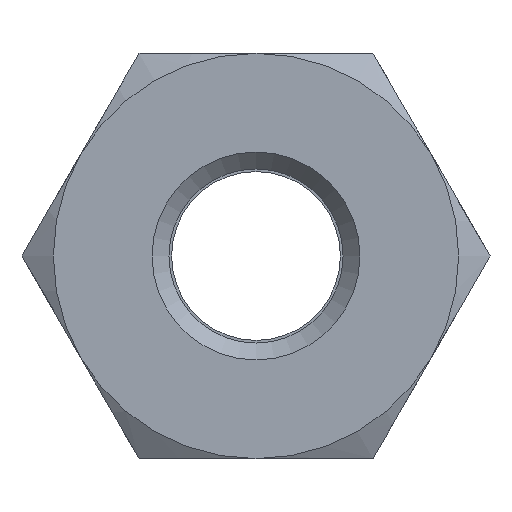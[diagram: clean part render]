
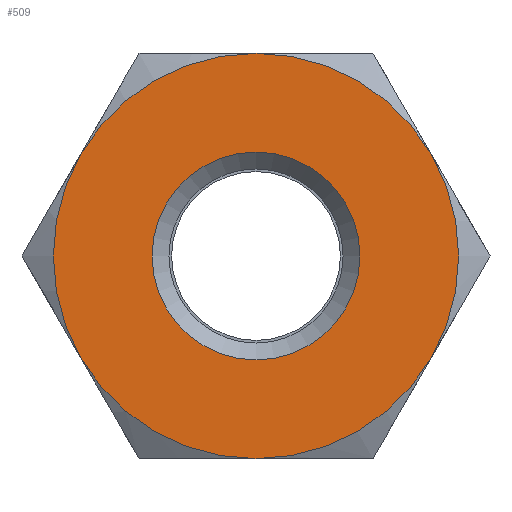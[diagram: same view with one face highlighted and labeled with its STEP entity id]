
A CAD part, front view. The second image highlights one B-rep face of the part: STEP entity #509.
In plain terms, the highlighted planar face has unit normal (0, -1, 0).
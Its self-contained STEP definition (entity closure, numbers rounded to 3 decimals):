
#47=FACE_BOUND('',#103,.T.);
#54=PLANE('',#566);
#68=FACE_OUTER_BOUND('',#102,.T.);
#102=EDGE_LOOP('',(#344,#345,#346,#347,#348,#349));
#103=EDGE_LOOP('',(#350));
#172=CIRCLE('',#565,3.077);
#173=CIRCLE('',#567,6.);
#174=CIRCLE('',#568,6.);
#175=CIRCLE('',#569,6.);
#176=CIRCLE('',#570,6.);
#177=CIRCLE('',#571,6.);
#178=CIRCLE('',#572,6.);
#212=VERTEX_POINT('',#806);
#213=VERTEX_POINT('',#810);
#214=VERTEX_POINT('',#811);
#215=VERTEX_POINT('',#813);
#216=VERTEX_POINT('',#815);
#217=VERTEX_POINT('',#817);
#218=VERTEX_POINT('',#819);
#264=EDGE_CURVE('',#212,#212,#172,.T.);
#265=EDGE_CURVE('',#213,#214,#173,.T.);
#266=EDGE_CURVE('',#214,#215,#174,.T.);
#267=EDGE_CURVE('',#215,#216,#175,.T.);
#268=EDGE_CURVE('',#216,#217,#176,.T.);
#269=EDGE_CURVE('',#217,#218,#177,.T.);
#270=EDGE_CURVE('',#218,#213,#178,.T.);
#344=ORIENTED_EDGE('',*,*,#265,.T.);
#345=ORIENTED_EDGE('',*,*,#266,.T.);
#346=ORIENTED_EDGE('',*,*,#267,.T.);
#347=ORIENTED_EDGE('',*,*,#268,.T.);
#348=ORIENTED_EDGE('',*,*,#269,.T.);
#349=ORIENTED_EDGE('',*,*,#270,.T.);
#350=ORIENTED_EDGE('',*,*,#264,.F.);
#509=ADVANCED_FACE('',(#68,#47),#54,.T.);
#565=AXIS2_PLACEMENT_3D('',#808,#645,#646);
#566=AXIS2_PLACEMENT_3D('',#809,#647,#648);
#567=AXIS2_PLACEMENT_3D('',#812,#649,#650);
#568=AXIS2_PLACEMENT_3D('',#814,#651,#652);
#569=AXIS2_PLACEMENT_3D('',#816,#653,#654);
#570=AXIS2_PLACEMENT_3D('',#818,#655,#656);
#571=AXIS2_PLACEMENT_3D('',#820,#657,#658);
#572=AXIS2_PLACEMENT_3D('',#821,#659,#660);
#645=DIRECTION('center_axis',(0.,-1.,0.));
#646=DIRECTION('ref_axis',(-1.,0.,0.));
#647=DIRECTION('center_axis',(0.,-1.,0.));
#648=DIRECTION('ref_axis',(0.,0.,-1.));
#649=DIRECTION('center_axis',(0.,-1.,0.));
#650=DIRECTION('ref_axis',(1.,0.,0.));
#651=DIRECTION('center_axis',(0.,-1.,0.));
#652=DIRECTION('ref_axis',(1.,0.,0.));
#653=DIRECTION('center_axis',(0.,-1.,0.));
#654=DIRECTION('ref_axis',(1.,0.,0.));
#655=DIRECTION('center_axis',(0.,-1.,0.));
#656=DIRECTION('ref_axis',(1.,0.,0.));
#657=DIRECTION('center_axis',(0.,-1.,0.));
#658=DIRECTION('ref_axis',(1.,0.,0.));
#659=DIRECTION('center_axis',(0.,-1.,0.));
#660=DIRECTION('ref_axis',(1.,0.,0.));
#806=CARTESIAN_POINT('',(3.077,0.,0.));
#808=CARTESIAN_POINT('Origin',(0.,0.,0.));
#809=CARTESIAN_POINT('Origin',(2.577,0.,0.));
#810=CARTESIAN_POINT('',(-5.196,0.,3.));
#811=CARTESIAN_POINT('',(-5.196,0.,-3.));
#812=CARTESIAN_POINT('Origin',(0.,0.,0.));
#813=CARTESIAN_POINT('',(0.,0.,-6.));
#814=CARTESIAN_POINT('Origin',(0.,0.,0.));
#815=CARTESIAN_POINT('',(5.196,0.,-3.));
#816=CARTESIAN_POINT('Origin',(0.,0.,0.));
#817=CARTESIAN_POINT('',(5.196,0.,3.));
#818=CARTESIAN_POINT('Origin',(0.,0.,0.));
#819=CARTESIAN_POINT('',(0.,0.,6.));
#820=CARTESIAN_POINT('Origin',(0.,0.,0.));
#821=CARTESIAN_POINT('Origin',(0.,0.,0.));
